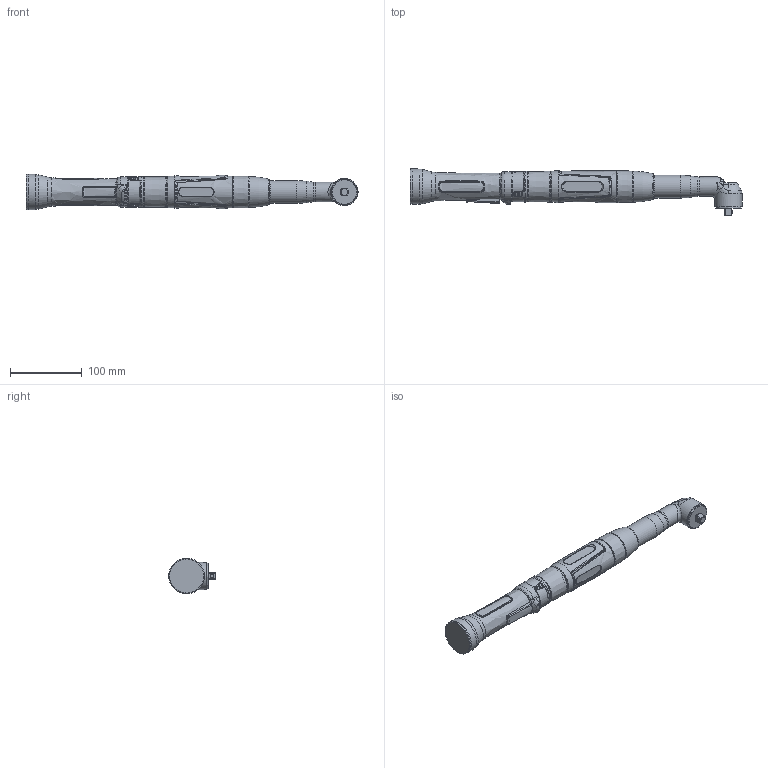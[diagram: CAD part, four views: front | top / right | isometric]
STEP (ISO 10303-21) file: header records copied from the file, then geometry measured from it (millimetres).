
FILE_DESCRIPTION (( 'STEP AP214' ), '1' );
FILE_NAME ('70058340_HSX1064WV38.STEP', '2016-11-17T06:08:50', ( 'admin' ), ( '' ), 'SwSTEP 2.0', 'SolidWorks 2014', '' );
FILE_SCHEMA (( 'AUTOMOTIVE_DESIGN' ));
Length unit declared in the file: millimetre
Products named in the file (1): 70058340_HSX1064WV38
Bounding box: 463.6 x 65.85 x 49.5 mm (x, y, z)
Volume: 523054.9 mm3; surface area: 82077.3 mm2
Topology: 4 solids, 4 shells, 965 faces, 2363 edges, 1388 vertices
Faces by surface type: bspline 356, cylinder 239, plane 165, torus 141, cone 36, sphere 28
Full cylindrical faces by diameter (mm): 1.7 x2, 3.8 x1, 4 x1, 27 x1, 32 x1, 38 x3, 39 x1, 39.5 x1, 40.5 x1, 42 x2, 43.3 x1, 43.5 x1, 49.5 x1
Entity records: 43321 total; most frequent: CARTESIAN_POINT 21401, ORIENTED_EDGE 4466, DIRECTION 3393, EDGE_CURVE 2233, AXIS2_PLACEMENT_3D 1430, VERTEX_POINT 1354, EDGE_LOOP 1059, FACE_OUTER_BOUND 1015
